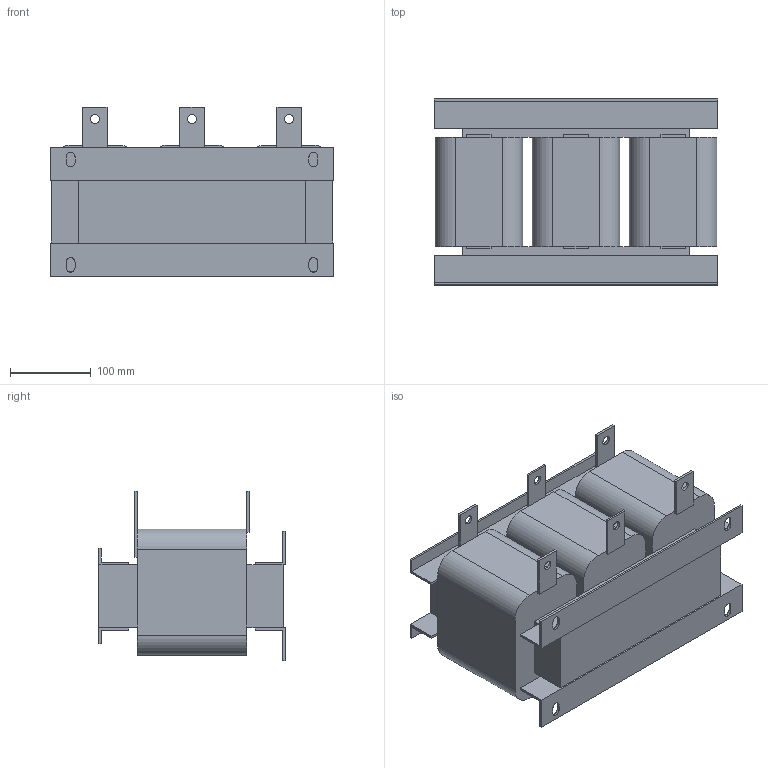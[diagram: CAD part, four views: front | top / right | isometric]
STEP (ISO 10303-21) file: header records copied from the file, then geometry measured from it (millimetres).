
FILE_DESCRIPTION(/* description */ (''),/* implementation_level */ '2;1');
FILE_NAME(/* name */ 'E:\Работа\Веда МК (Данфосс)\!Текущие задачи\2024.08.30 3D модели\Дроссели\ACO 1-проц 660 В\STP\ACO-C-0235-T6.stp',/* time_stamp */ '2024-10-31T16:16:16+04:00',/* author */ ('Александр (огранич)'),/* organization */ (''),/* preprocessor_version */ 'ST-DEVELOPER v18.1',/* originating_system */ 'Autodesk Inventor 2021',/* authorisation */ '');
FILE_SCHEMA (('AUTOMOTIVE_DESIGN { 1 0 10303 214 3 1 1 }'));
Length unit declared in the file: millimetre
Products named in the file (1): ACO-0015-T4-4
Bounding box: 350 x 230 x 210 mm (x, y, z)
Volume: 8940310.6 mm3; surface area: 538832.3 mm2
Topology: 3 solids, 3 shells, 136 faces, 373 edges, 239 vertices
Faces by surface type: plane 110, cylinder 26
Full cylindrical faces by diameter (mm): 11 x6
Entity records: 4327 total; most frequent: CARTESIAN_POINT 749, ORIENTED_EDGE 746, DIRECTION 702, EDGE_CURVE 373, LINE 318, VECTOR 318, VERTEX_POINT 239, AXIS2_PLACEMENT_3D 192
